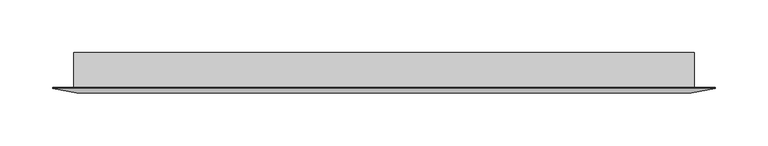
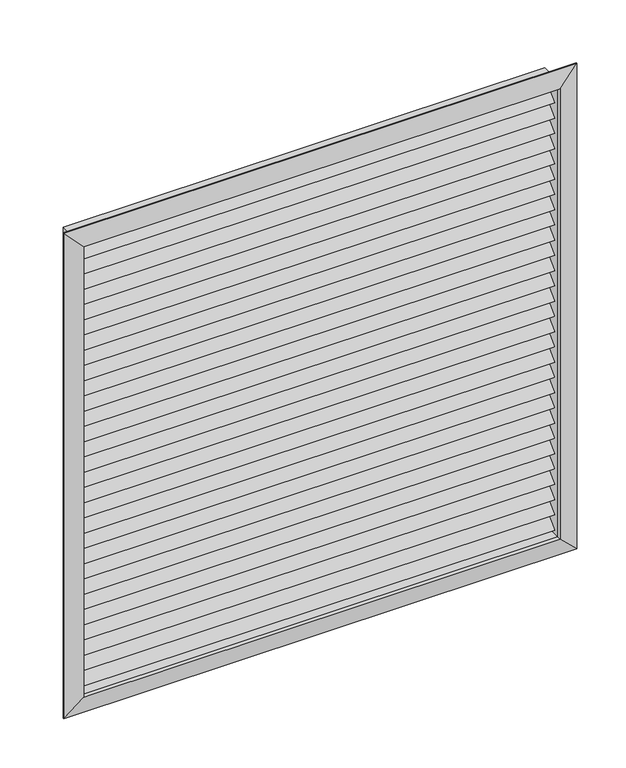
"""IFC4 building model written with IfcOpenShell, lengths in millimetres: damper geometry, GrelhaDeInsuflamento_Quadrada1 : Veneziana- Ar Exterior."""

import ifcopenshell
import ifcopenshell.guid

model = None  # the IFC model being written
_history = None  # IfcOwnerHistory: only IFC2X3 demands one
_inside = {}  # id of a spatial element -> (the spatial element, [elements in it])
_under = {}  # id of a project, library or spatial element -> (it, [spatial elements below it])
_declared = {}  # id of a project -> (the project, [libraries it declares])
_typed = {}  # id of a type object -> (the type object, [elements of that type])
_made_of = {}  # id of a material, layer set ... -> (it, [elements and type objects made of it])


def new_model(schema):
    """Start an empty IFC model of exactly this schema.

    Asked for "IFC4X3", IfcOpenShell would pick the latest addendum, in which some entities
    have other attributes; the version numbers below select the first issue.
    IFC2X3 requires an IfcOwnerHistory on every rooted entity: one is made here for all.
    """
    global model, _history
    if schema == "IFC4X3":
        model = ifcopenshell.file(schema_version=(4, 3, 0, 0))
    else:
        model = ifcopenshell.file(schema=schema)
    _inside.clear()
    _under.clear()
    _declared.clear()
    _typed.clear()
    _made_of.clear()
    _history = None
    if model.schema == "IFC2X3":
        org = make("IfcOrganization", Name="unknown")
        user = make(
            "IfcPersonAndOrganization",
            ThePerson=make("IfcPerson", FamilyName="unknown"),
            TheOrganization=org,
        )
        app = make(
            "IfcApplication",
            ApplicationDeveloper=org,
            Version="unknown",
            ApplicationFullName="unknown",
            ApplicationIdentifier="unknown",
        )
        _history = make(
            "IfcOwnerHistory",
            OwningUser=user,
            OwningApplication=app,
            ChangeAction="ADDED",
            CreationDate=0,
        )
    return model


def make(cls, **values):
    """One entity of the class cls with the attributes given. An attribute that is None is left unset."""
    return model.create_entity(
        cls, **{name: value for name, value in values.items() if value is not None}
    )


def rooted(cls, **values):
    """An entity with a GlobalId (a new one), such as an element, a storey or a relation."""
    return make(cls, GlobalId=ifcopenshell.guid.new(), OwnerHistory=_history, **values)


def si_unit(unit_type, name, prefix=None):
    """IfcSIUnit, for example si_unit("LENGTHUNIT", "METRE", prefix="MILLI")."""
    return make("IfcSIUnit", UnitType=unit_type, Prefix=prefix, Name=name)


def assignment(units):
    """IfcUnitAssignment: the units of a project."""
    return None if units is None else make("IfcUnitAssignment", Units=units)


def point(xyz):
    """IfcCartesianPoint."""
    return None if xyz is None else make("IfcCartesianPoint", Coordinates=xyz)


def direction(xyz):
    """IfcDirection."""
    return None if xyz is None else make("IfcDirection", DirectionRatios=xyz)


def frame(location, z_axis=None, x_axis=None):
    """IfcAxis2Placement3D, a coordinate frame: its origin and axes. An axis left out is left unset."""
    return make(
        "IfcAxis2Placement3D",
        Location=point(location),
        Axis=direction(z_axis),
        RefDirection=direction(x_axis),
    )


def origin():
    """The frame at (0, 0, 0) with its axes left unset."""
    return frame((0.0, 0.0, 0.0))


def place(relative_to, where):
    """IfcLocalPlacement: puts the frame where relative to a parent placement (None: the world)."""
    return make(
        "IfcLocalPlacement", PlacementRelTo=relative_to, RelativePlacement=where
    )


def context(
    kind, dimensions, precision=None, world=None, true_north=None, identifier=None
):
    """IfcGeometricRepresentationContext, for example the 3D "Model" context."""
    return make(
        "IfcGeometricRepresentationContext",
        ContextIdentifier=identifier,
        ContextType=kind,
        CoordinateSpaceDimension=dimensions,
        Precision=precision,
        WorldCoordinateSystem=world,
        TrueNorth=true_north,
    )


def project(units=None, contexts=None):
    """IfcProject with its units and contexts."""
    return rooted(
        "IfcProject",
        Name="project",
        RepresentationContexts=contexts,
        UnitsInContext=assignment(units),
    )


def spatial(cls, under=None, at=None, **own):
    """A site, building, storey or space (cls), placed at a placement, below another one or the project."""
    s = rooted(cls, ObjectPlacement=at, **own)
    if under is not None:
        _under.setdefault(under.id(), (under, []))[1].append(s)
    return s


def polyline(points):
    """IfcPolyline through the points."""
    return make("IfcPolyline", Points=[point(p) for p in points])


def outline(outer, holes=None, kind="AREA"):
    """IfcArbitraryClosedProfileDef: a profile drawn as a closed curve; with holes, ...WithVoids."""
    if holes is None:
        return make("IfcArbitraryClosedProfileDef", ProfileType=kind, OuterCurve=outer)
    return make(
        "IfcArbitraryProfileDefWithVoids",
        ProfileType=kind,
        OuterCurve=outer,
        InnerCurves=holes,
    )


def extrude(swept, where, along, depth):
    """IfcExtrudedAreaSolid: the profile swept, set in the frame where, extruded along a direction by depth."""
    return make(
        "IfcExtrudedAreaSolid",
        SweptArea=swept,
        Position=where,
        ExtrudedDirection=direction(along),
        Depth=depth,
    )


def faces_of(points, faces, orient=None, outer=None):
    """IfcFace entities. A face is a list of loops; a loop is a list of indices into points, from 0.

    orient and outer hold one flag for each loop. By default every Orientation is true, the
    first loop of a face is its IfcFaceOuterBound and the others are IfcFaceBound.
    """
    made = []
    for i, loops in enumerate(faces):
        bounds = []
        for j, loop in enumerate(loops):
            is_outer = j == 0 if outer is None else outer[i][j]
            bounds.append(
                make(
                    "IfcFaceOuterBound" if is_outer else "IfcFaceBound",
                    Bound=make("IfcPolyLoop", Polygon=[points[k] for k in loop]),
                    Orientation=True if orient is None else orient[i][j],
                )
            )
        made.append(make("IfcFace", Bounds=bounds))
    return made


def faceted_brep(points, faces, orient=None, outer=None, voids=None):
    """IfcFacetedBrep: a solid bounded by flat faces; with voids (closed shells), ...WithVoids."""
    shared = [point(p) for p in points]
    hull = make("IfcClosedShell", CfsFaces=faces_of(shared, faces, orient, outer))
    if voids is None:
        return make("IfcFacetedBrep", Outer=hull)
    return make(
        "IfcFacetedBrepWithVoids",
        Outer=hull,
        Voids=[
            make(cls, CfsFaces=faces_of(shared, fs, o, b)) for cls, fs, o, b in voids
        ],
    )


def shape(context_of_items, identifier, shape_type, items):
    """IfcShapeRepresentation: the items that make up one representation, for example the "Body"."""
    return make(
        "IfcShapeRepresentation",
        ContextOfItems=context_of_items,
        RepresentationIdentifier=identifier,
        RepresentationType=shape_type,
        Items=items,
    )


def source(mapping_origin, context_of_items, identifier, shape_type, items):
    """IfcRepresentationMap: a shape defined once, which mapped items show again and again."""
    return make(
        "IfcRepresentationMap",
        MappingOrigin=mapping_origin,
        MappedRepresentation=shape(context_of_items, identifier, shape_type, items),
    )


def transform(
    local_origin,
    x_axis=None,
    y_axis=None,
    z_axis=None,
    scale=None,
    scale2=None,
    scale3=None,
    uniform=True,
):
    """IfcCartesianTransformationOperator3D, or its non-uniform kind. x_axis, y_axis, z_axis: its Axis1, 2, 3."""
    if uniform:
        return make(
            "IfcCartesianTransformationOperator3D",
            Axis1=direction(x_axis),
            Axis2=direction(y_axis),
            LocalOrigin=point(local_origin),
            Scale=scale,
            Axis3=direction(z_axis),
        )
    return make(
        "IfcCartesianTransformationOperator3DnonUniform",
        Axis1=direction(x_axis),
        Axis2=direction(y_axis),
        LocalOrigin=point(local_origin),
        Scale=scale,
        Axis3=direction(z_axis),
        Scale2=scale2,
        Scale3=scale3,
    )


def mapped(mapping_source, mapping_target):
    """IfcMappedItem: shows the shape of a source again, moved by a transform."""
    return make(
        "IfcMappedItem", MappingSource=mapping_source, MappingTarget=mapping_target
    )


def made_of(thing, what):
    """Note that an element or type object is made of a material, layer set ...; save() writes the relation."""
    if what is not None:
        _made_of.setdefault(what.id(), (what, []))[1].append(thing)
    return thing


def element(
    cls,
    number,
    at=None,
    inside=None,
    cuts=None,
    type_object=None,
    material=None,
    context=None,
    identifier="Body",
    shape_type=None,
    held_by="IfcProductDefinitionShape",
    body=None,
    shapes=None,
    **own,
):
    """One element of the class cls, such as IfcWall. Its Tag is "e" and its number.

    at: its placement. inside: the storey or other place that contains it. cuts: it is an
    opening in that element (IfcRelVoidsElement). A single representation is given by context,
    identifier, shape_type and body (its items); several are given by shapes. held_by: the class
    of the entity that holds the representations. save() writes the other relations.
    """
    e = rooted(cls, Tag="e%d" % number, ObjectPlacement=at, **own)
    if body is not None:
        shapes = [shape(context, identifier, shape_type, body)]
    if shapes is not None:
        e.Representation = make(held_by, Representations=shapes)
    if inside is not None:
        _inside.setdefault(inside.id(), (inside, []))[1].append(e)
    if cuts is not None:
        rooted(
            "IfcRelVoidsElement", RelatingBuildingElement=cuts, RelatedOpeningElement=e
        )
    if type_object is not None:
        _typed.setdefault(type_object.id(), (type_object, []))[1].append(e)
    return made_of(e, material)


def aggregate(whole, parts):
    """IfcRelAggregates: a whole, such as a stair, and the parts it consists of."""
    return rooted("IfcRelAggregates", RelatingObject=whole, RelatedObjects=parts)


def save(model, path):
    """Write the relations noted so far, then the file.

    IfcRelAggregates (storeys below a building ...), IfcRelContainedInSpatialStructure (elements
    in a storey), IfcRelDefinesByType, IfcRelAssociatesMaterial and IfcRelDeclares: one each for
    every whole, place, type object, material and project.
    """
    for whole, parts in _under.values():
        aggregate(whole, parts)
    for where, things in _inside.values():
        rooted(
            "IfcRelContainedInSpatialStructure",
            RelatedElements=things,
            RelatingStructure=where,
        )
    for kind, things in _typed.values():
        rooted("IfcRelDefinesByType", RelatedObjects=things, RelatingType=kind)
    for what, things in _made_of.values():
        rooted("IfcRelAssociatesMaterial", RelatedObjects=things, RelatingMaterial=what)
    for by, libraries in _declared.values():
        rooted("IfcRelDeclares", RelatingContext=by, RelatedDefinitions=libraries)
    model.write(path)


def damper_1e25a3dc(model_context):
    return source(origin(), model_context, "Body", "SolidModel", [
        extrude(outline(polyline([(6.5, -265.3571429), (26.5, -245.3571429), (26.5, -252.4282107), (13.5710678, -265.3571429), (6.5, -265.3571429)])), frame((-290.0, 0.0, 0.0), z_axis=(1.0, 0.0, 0.0), x_axis=(0.0, 1.0, 0.0)), (0.0, 0.0, 1.0), 580.0),
        extrude(outline(polyline([(6.5, -245.7142857), (26.5, -225.7142857), (26.5, -232.7853535), (13.5710678, -245.7142857), (6.5, -245.7142857)])), frame((-290.0, 0.0, 0.0), z_axis=(1.0, 0.0, 0.0), x_axis=(0.0, 1.0, 0.0)), (0.0, 0.0, 1.0), 580.0),
        extrude(outline(polyline([(6.5, -226.0714286), (26.5, -206.0714286), (26.5, -213.1424964), (13.5710678, -226.0714286), (6.5, -226.0714286)])), frame((-290.0, 0.0, 0.0), z_axis=(1.0, 0.0, 0.0), x_axis=(0.0, 1.0, 0.0)), (0.0, 0.0, 1.0), 580.0),
        extrude(outline(polyline([(6.5, -206.4285714), (26.5, -186.4285714), (26.5, -193.4996392), (13.5710678, -206.4285714), (6.5, -206.4285714)])), frame((-290.0, 0.0, 0.0), z_axis=(1.0, 0.0, 0.0), x_axis=(0.0, 1.0, 0.0)), (0.0, 0.0, 1.0), 580.0),
        extrude(outline(polyline([(6.5, -186.7857143), (26.5, -166.7857143), (26.5, -173.8567821), (13.5710678, -186.7857143), (6.5, -186.7857143)])), frame((-290.0, 0.0, 0.0), z_axis=(1.0, 0.0, 0.0), x_axis=(0.0, 1.0, 0.0)), (0.0, 0.0, 1.0), 580.0),
        extrude(outline(polyline([(6.5, -167.1428571), (26.5, -147.1428571), (26.5, -154.213925), (13.5710678, -167.1428571), (6.5, -167.1428571)])), frame((-290.0, 0.0, 0.0), z_axis=(1.0, 0.0, 0.0), x_axis=(0.0, 1.0, 0.0)), (0.0, 0.0, 1.0), 580.0),
        extrude(outline(polyline([(6.5, -147.5), (26.5, -127.5), (26.5, -134.5710678), (13.5710678, -147.5), (6.5, -147.5)])), frame((-290.0, 0.0, 0.0), z_axis=(1.0, 0.0, 0.0), x_axis=(0.0, 1.0, 0.0)), (0.0, 0.0, 1.0), 580.0),
        extrude(outline(polyline([(6.5, -127.8571429), (26.5, -107.8571429), (26.5, -114.9282107), (13.5710678, -127.8571429), (6.5, -127.8571429)])), frame((-290.0, 0.0, 0.0), z_axis=(1.0, 0.0, 0.0), x_axis=(0.0, 1.0, 0.0)), (0.0, 0.0, 1.0), 580.0),
        extrude(outline(polyline([(6.5, -108.2142857), (26.5, -88.2142857), (26.5, -95.2853535), (13.5710678, -108.2142857), (6.5, -108.2142857)])), frame((-290.0, 0.0, 0.0), z_axis=(1.0, 0.0, 0.0), x_axis=(0.0, 1.0, 0.0)), (0.0, 0.0, 1.0), 580.0),
        extrude(outline(polyline([(6.5, -88.5714286), (26.5, -68.5714286), (26.5, -75.6424964), (13.5710678, -88.5714286), (6.5, -88.5714286)])), frame((-290.0, 0.0, 0.0), z_axis=(1.0, 0.0, 0.0), x_axis=(0.0, 1.0, 0.0)), (0.0, 0.0, 1.0), 580.0),
        extrude(outline(polyline([(6.5, -68.9285714), (26.5, -48.9285714), (26.5, -55.9996392), (13.5710678, -68.9285714), (6.5, -68.9285714)])), frame((-290.0, 0.0, 0.0), z_axis=(1.0, 0.0, 0.0), x_axis=(0.0, 1.0, 0.0)), (0.0, 0.0, 1.0), 580.0),
        extrude(outline(polyline([(6.5, -49.2857143), (26.5, -29.2857143), (26.5, -36.3567821), (13.5710678, -49.2857143), (6.5, -49.2857143)])), frame((-290.0, 0.0, 0.0), z_axis=(1.0, 0.0, 0.0), x_axis=(0.0, 1.0, 0.0)), (0.0, 0.0, 1.0), 580.0),
        extrude(outline(polyline([(6.5, -29.6428571), (26.5, -9.6428571), (26.5, -16.713925), (13.5710678, -29.6428571), (6.5, -29.6428571)])), frame((-290.0, 0.0, 0.0), z_axis=(1.0, 0.0, 0.0), x_axis=(0.0, 1.0, 0.0)), (0.0, 0.0, 1.0), 580.0),
        extrude(outline(polyline([(6.5, -10.0), (26.5, 10.0), (26.5, 2.9289322), (13.5710678, -10.0), (6.5, -10.0)])), frame((-290.0, 0.0, 0.0), z_axis=(1.0, 0.0, 0.0), x_axis=(0.0, 1.0, 0.0)), (0.0, 0.0, 1.0), 580.0),
        extrude(outline(polyline([(6.5, 9.6428571), (26.5, 29.6428571), (26.5, 22.5717893), (13.5710678, 9.6428571), (6.5, 9.6428571)])), frame((-290.0, 0.0, 0.0), z_axis=(1.0, 0.0, 0.0), x_axis=(0.0, 1.0, 0.0)), (0.0, 0.0, 1.0), 580.0),
        extrude(outline(polyline([(6.5, 29.2857143), (26.5, 49.2857143), (26.5, 42.2146465), (13.5710678, 29.2857143), (6.5, 29.2857143)])), frame((-290.0, 0.0, 0.0), z_axis=(1.0, 0.0, 0.0), x_axis=(0.0, 1.0, 0.0)), (0.0, 0.0, 1.0), 580.0),
        extrude(outline(polyline([(6.5, 48.9285714), (26.5, 68.9285714), (26.5, 61.8575036), (13.5710678, 48.9285714), (6.5, 48.9285714)])), frame((-290.0, 0.0, 0.0), z_axis=(1.0, 0.0, 0.0), x_axis=(0.0, 1.0, 0.0)), (0.0, 0.0, 1.0), 580.0),
        extrude(outline(polyline([(6.5, 68.5714286), (26.5, 88.5714286), (26.5, 81.5003608), (13.5710678, 68.5714286), (6.5, 68.5714286)])), frame((-290.0, 0.0, 0.0), z_axis=(1.0, 0.0, 0.0), x_axis=(0.0, 1.0, 0.0)), (0.0, 0.0, 1.0), 580.0),
        extrude(outline(polyline([(6.5, 88.2142857), (26.5, 108.2142857), (26.5, 101.1432179), (13.5710678, 88.2142857), (6.5, 88.2142857)])), frame((-290.0, 0.0, 0.0), z_axis=(1.0, 0.0, 0.0), x_axis=(0.0, 1.0, 0.0)), (0.0, 0.0, 1.0), 580.0),
        extrude(outline(polyline([(6.5, 107.8571429), (26.5, 127.8571429), (26.5, 120.786075), (13.5710678, 107.8571429), (6.5, 107.8571429)])), frame((-290.0, 0.0, 0.0), z_axis=(1.0, 0.0, 0.0), x_axis=(0.0, 1.0, 0.0)), (0.0, 0.0, 1.0), 580.0),
        extrude(outline(polyline([(6.5, 127.5), (26.5, 147.5), (26.5, 140.4289322), (13.5710678, 127.5), (6.5, 127.5)])), frame((-290.0, 0.0, 0.0), z_axis=(1.0, 0.0, 0.0), x_axis=(0.0, 1.0, 0.0)), (0.0, 0.0, 1.0), 580.0),
        extrude(outline(polyline([(6.5, 147.1428571), (26.5, 167.1428571), (26.5, 160.0717893), (13.5710678, 147.1428571), (6.5, 147.1428571)])), frame((-290.0, 0.0, 0.0), z_axis=(1.0, 0.0, 0.0), x_axis=(0.0, 1.0, 0.0)), (0.0, 0.0, 1.0), 580.0),
        extrude(outline(polyline([(6.5, 166.7857143), (26.5, 186.7857143), (26.5, 179.7146465), (13.5710678, 166.7857143), (6.5, 166.7857143)])), frame((-290.0, 0.0, 0.0), z_axis=(1.0, 0.0, 0.0), x_axis=(0.0, 1.0, 0.0)), (0.0, 0.0, 1.0), 580.0),
        extrude(outline(polyline([(6.5, 186.4285714), (26.5, 206.4285714), (26.5, 199.3575036), (13.5710678, 186.4285714), (6.5, 186.4285714)])), frame((-290.0, 0.0, 0.0), z_axis=(1.0, 0.0, 0.0), x_axis=(0.0, 1.0, 0.0)), (0.0, 0.0, 1.0), 580.0),
        extrude(outline(polyline([(6.5, 206.0714286), (26.5, 226.0714286), (26.5, 219.0003608), (13.5710678, 206.0714286), (6.5, 206.0714286)])), frame((-290.0, 0.0, 0.0), z_axis=(1.0, 0.0, 0.0), x_axis=(0.0, 1.0, 0.0)), (0.0, 0.0, 1.0), 580.0),
        extrude(outline(polyline([(6.5, 225.7142857), (26.5, 245.7142857), (26.5, 238.6432179), (13.5710678, 225.7142857), (6.5, 225.7142857)])), frame((-290.0, 0.0, 0.0), z_axis=(1.0, 0.0, 0.0), x_axis=(0.0, 1.0, 0.0)), (0.0, 0.0, 1.0), 580.0),
        extrude(outline(polyline([(6.5, 245.3571429), (26.5, 265.3571429), (26.5, 258.286075), (13.5710678, 245.3571429), (6.5, 245.3571429)])), frame((-290.0, 0.0, 0.0), z_axis=(1.0, 0.0, 0.0), x_axis=(0.0, 1.0, 0.0)), (0.0, 0.0, 1.0), 580.0),
        extrude(outline(polyline([(6.5, -285.0), (26.5, -265.0), (26.5, -272.0710678), (13.5710678, -285.0), (6.5, -285.0)])), frame((-290.0, 0.0, 0.0), z_axis=(1.0, 0.0, 0.0), x_axis=(0.0, 1.0, 0.0)), (0.0, 0.0, 1.0), 580.0),
        extrude(outline(polyline([(6.5, 265.0), (26.5, 285.0), (26.5, 277.9289322), (13.5710678, 265.0), (6.5, 265.0)])), frame((-290.0, 0.0, 0.0), z_axis=(1.0, 0.0, 0.0), x_axis=(0.0, 1.0, 0.0)), (0.0, 0.0, 1.0), 580.0),
        faceted_brep([(-312.5, -1.0, -312.5), (-312.5, 0.0, -312.5), (312.5, 0.0, -312.5), (312.5, -1.0, -312.5), (-290.0, -5.0, -290.0), (290.0, -5.0, -290.0), (-290.0, 0.0, -290.0), (290.0, 0.0, -290.0), (312.5, 0.0, 312.5), (312.5, -1.0, 312.5), (290.0, -5.0, 290.0), (290.0, 0.0, 290.0), (-312.5, 0.0, 312.5), (-312.5, -1.0, 312.5), (-290.0, -5.0, 290.0), (-290.0, 0.0, 290.0)], [[[0, 1, 2, 3]], [[4, 0, 3, 5]], [[6, 4, 5, 7]], [[3, 2, 8, 9]], [[5, 3, 9, 10]], [[7, 5, 10, 11]], [[9, 8, 12, 13]], [[10, 9, 13, 14]], [[11, 10, 14, 15]], [[13, 12, 1, 0]], [[14, 13, 0, 4]], [[15, 14, 4, 6]], [[1, 12, 8, 2], [7, 11, 15, 6]]]),
        extrude(outline(polyline([(293.0, 293.0), (293.0, -293.0), (-293.0, -293.0), (-293.0, 293.0), (293.0, 293.0)]), holes=[polyline([(290.0, 290.0), (-290.0, 290.0), (-290.0, -290.0), (290.0, -290.0), (290.0, 290.0)])]), frame((0.0, 0.0, 0.0), z_axis=(0.0, 1.0, 0.0), x_axis=(0.0, 0.0, 1.0)), (0.0, 0.0, 1.0), 33.0),
    ])


if __name__ == "__main__":
    model = new_model("IFC4")
    model_context = context("Model", 3, world=origin())
    ifc_project = project(units=[si_unit("LENGTHUNIT", "METRE", prefix="MILLI")], contexts=[model_context])
    site = spatial("IfcSite", under=ifc_project)
    building = spatial("IfcBuilding", under=site)
    placement = place(None, origin())
    damper_shape = damper_1e25a3dc(model_context)
    element("IfcDamper", 1, ObjectType="GrelhaDeInsuflamento_Quadrada1 : Veneziana- Ar Exterior", at=placement, inside=building, context=model_context, shape_type="MappedRepresentation", body=[
        mapped(damper_shape, transform((0.0, 0.0, 0.0), x_axis=(1.0, 0.0, 0.0), y_axis=(0.0, 1.0, 0.0), z_axis=(0.0, 0.0, 1.0))),
    ])
    save(model, "model.ifc")
